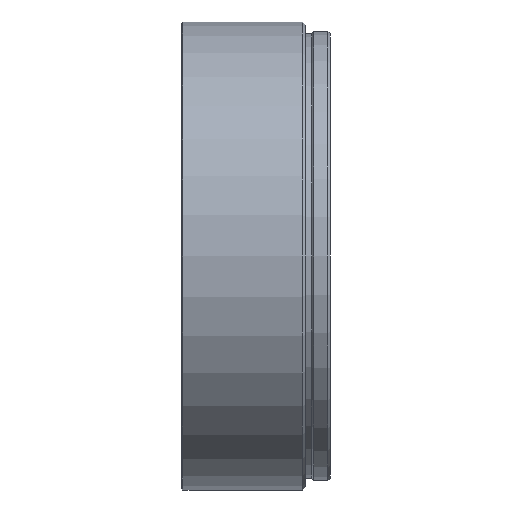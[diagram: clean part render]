
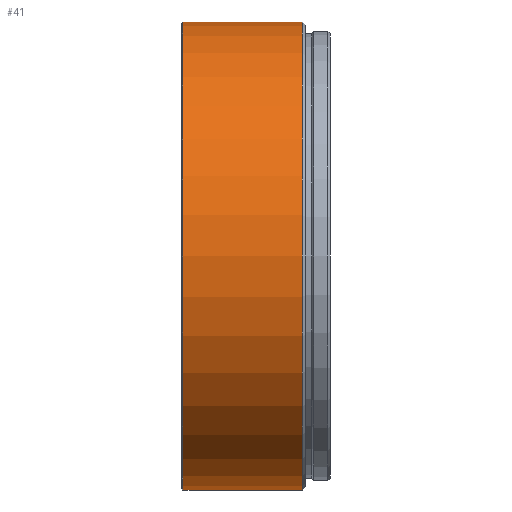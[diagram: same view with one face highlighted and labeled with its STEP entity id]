
A CAD part, front view. The second image highlights one B-rep face of the part: STEP entity #41.
In plain terms, the highlighted cylindrical face has radius 37.5 mm (diameter 75 mm), a partial arc.
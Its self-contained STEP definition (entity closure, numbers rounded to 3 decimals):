
#34 = CYLINDRICAL_SURFACE ( 'NONE', #909, 37.5 ) ;
#38 = DIRECTION ( 'NONE',  ( 0., 0., 1. ) ) ;
#41 = ADVANCED_FACE ( 'NONE', ( #658 ), #34, .T. ) ;
#71 = CARTESIAN_POINT ( 'NONE',  ( 19.3, 0., -37.5 ) ) ;
#73 = ORIENTED_EDGE ( 'NONE', *, *, #385, .T. ) ;
#111 = VECTOR ( 'NONE', #560, 1000. ) ;
#133 = LINE ( 'NONE', #157, #111 ) ;
#147 = DIRECTION ( 'NONE',  ( 0., 0., -1. ) ) ;
#154 = AXIS2_PLACEMENT_3D ( 'NONE', #706, #641, #147 ) ;
#157 = CARTESIAN_POINT ( 'NONE',  ( 0., 0., -37.5 ) ) ;
#168 = CARTESIAN_POINT ( 'NONE',  ( 0., 0., 0. ) ) ;
#185 = VECTOR ( 'NONE', #409, 1000. ) ;
#191 = ORIENTED_EDGE ( 'NONE', *, *, #319, .T. ) ;
#214 = VERTEX_POINT ( 'NONE', #304 ) ;
#227 = CARTESIAN_POINT ( 'NONE',  ( 0.2, 0., 37.5 ) ) ;
#245 = VERTEX_POINT ( 'NONE', #227 ) ;
#264 = ORIENTED_EDGE ( 'NONE', *, *, #494, .T. ) ;
#304 = CARTESIAN_POINT ( 'NONE',  ( 0.2, 0., -37.5 ) ) ;
#319 = EDGE_CURVE ( 'NONE', #245, #214, #833, .T. ) ;
#344 = DIRECTION ( 'NONE',  ( 0., 0., 1. ) ) ;
#385 = EDGE_CURVE ( 'NONE', #726, #892, #561, .T. ) ;
#409 = DIRECTION ( 'NONE',  ( -1., 0., 0. ) ) ;
#420 = DIRECTION ( 'NONE',  ( -1., 0., 0. ) ) ;
#475 = EDGE_LOOP ( 'NONE', ( #838, #73, #264, #191 ) ) ;
#494 = EDGE_CURVE ( 'NONE', #892, #245, #585, .T. ) ;
#560 = DIRECTION ( 'NONE',  ( -1., 0., 0. ) ) ;
#561 = CIRCLE ( 'NONE', #578, 37.5 ) ;
#578 = AXIS2_PLACEMENT_3D ( 'NONE', #906, #420, #344 ) ;
#585 = LINE ( 'NONE', #826, #185 ) ;
#611 = DIRECTION ( 'NONE',  ( -1., 0., 0. ) ) ;
#641 = DIRECTION ( 'NONE',  ( 1., 0., 0. ) ) ;
#658 = FACE_OUTER_BOUND ( 'NONE', #475, .T. ) ;
#706 = CARTESIAN_POINT ( 'NONE',  ( 0.2, 0., 0. ) ) ;
#726 = VERTEX_POINT ( 'NONE', #71 ) ;
#791 = EDGE_CURVE ( 'NONE', #726, #214, #133, .T. ) ;
#826 = CARTESIAN_POINT ( 'NONE',  ( 0., 0., 37.5 ) ) ;
#833 = CIRCLE ( 'NONE', #154, 37.5 ) ;
#838 = ORIENTED_EDGE ( 'NONE', *, *, #791, .F. ) ;
#892 = VERTEX_POINT ( 'NONE', #897 ) ;
#897 = CARTESIAN_POINT ( 'NONE',  ( 19.3, 0., 37.5 ) ) ;
#906 = CARTESIAN_POINT ( 'NONE',  ( 19.3, 0., 0. ) ) ;
#909 = AXIS2_PLACEMENT_3D ( 'NONE', #168, #611, #38 ) ;
